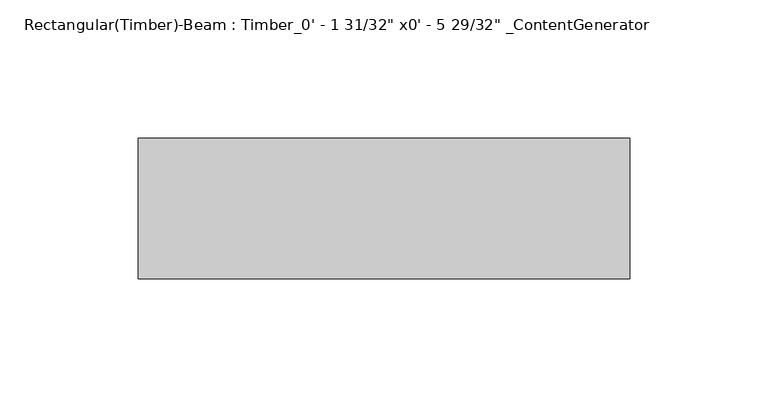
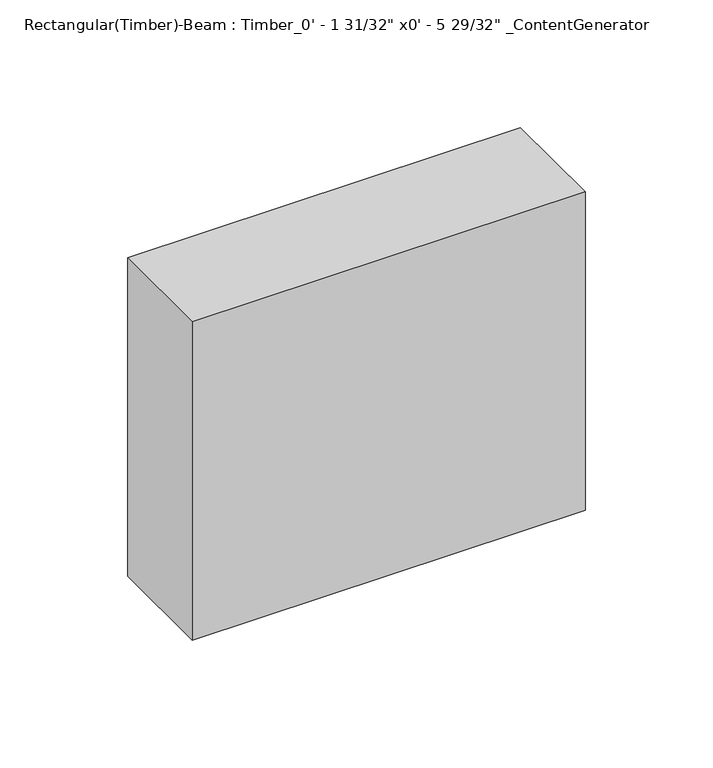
"""IFC4 building model written with IfcOpenShell, lengths in millimetres: beam geometry."""

from ifc_helpers import new_model, si_unit, frame, origin, place, context, project, spatial, polyline, outline, extrude, source, transform, mapped, element, save


def beam_d532e8d7(model_context):
    return source(origin(), model_context, "Body", "SweptSolid", [
        extrude(outline(polyline([(101.6049994, 25.4), (101.6049994, -25.4), (-76.205, -25.4), (-76.205, 25.4), (101.6049994, 25.4)])), frame((0.0, 0.0, -76.2), z_axis=(0.0, 0.0, 1.0), x_axis=(1.0, 0.0, 0.0)), (0.0, 0.0, 1.0), 152.4),
    ])


if __name__ == "__main__":
    model = new_model("IFC4")
    model_context = context("Model", 3, world=origin())
    ifc_project = project(units=[si_unit("LENGTHUNIT", "METRE", prefix="MILLI")], contexts=[model_context])
    site = spatial("IfcSite", under=ifc_project)
    building = spatial("IfcBuilding", under=site)
    placement = place(None, origin())
    beam_shape = beam_d532e8d7(model_context)
    element("IfcBeam", 1, ObjectType="Rectangular(Timber)-Beam : Timber_0' - 1 31/32\" x0' - 5 29/32\" _ContentGenerator", at=placement, inside=building, context=model_context, shape_type="MappedRepresentation", body=[
        mapped(beam_shape, transform((0.0, 0.0, 0.0), x_axis=(1.0, 0.0, 0.0), y_axis=(0.0, 1.0, 0.0), z_axis=(0.0, 0.0, 1.0))),
    ])
    save(model, "model.ifc")
